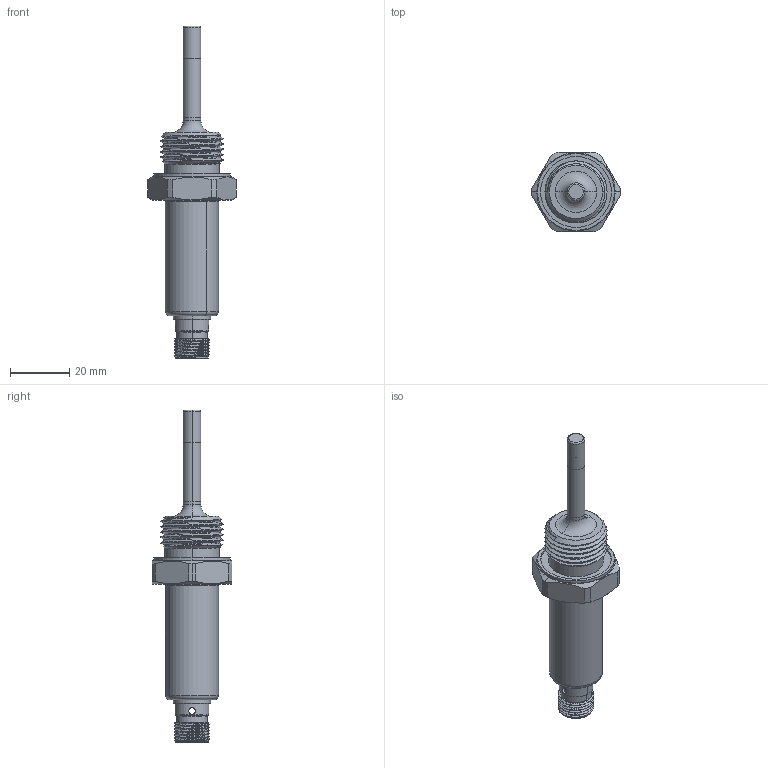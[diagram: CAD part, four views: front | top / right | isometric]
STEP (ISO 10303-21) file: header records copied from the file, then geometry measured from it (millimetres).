
FILE_DESCRIPTION (( 'STEP AP203' ), '1' );
FILE_NAME ('4分外牙TA温度L50装配体.STEP', '2026-03-03T08:24:38', ( '' ), ( '' ), 'SwSTEP 2.0', 'SolidWorks 2022', '' );
FILE_SCHEMA (( 'CONFIG_CONTROL_DESIGN' ));
Length unit declared in the file: millimetre
Products named in the file (6): 抻芛奪酗僅11; 褲极; 抻芛晊酗奪25; 瑤脣釱褲; G4煦假蚾諉芛; 4分外牙TA温度L50装配体
Assembly tree (5 placements, depth 2):
  4分外牙TA温度L50装配体
    G4煦假蚾諉芛
    瑤脣釱褲
    褲极
    抻芛奪酗僅11
    抻芛晊酗奪25
Bounding box: 30 x 27 x 112.4 mm (x, y, z)
Volume: 10196.2 mm3; surface area: 11213.4 mm2
Topology: 5 solids, 5 shells, 153 faces, 353 edges, 226 vertices
Faces by surface type: cylinder 83, plane 35, cone 15, torus 14, bspline 6
Entity records: 9057 total; most frequent: CARTESIAN_POINT 5028, DIRECTION 729, ORIENTED_EDGE 706, EDGE_CURVE 353, AXIS2_PLACEMENT_3D 311, VERTEX_POINT 226, EDGE_LOOP 181, CIRCLE 156
